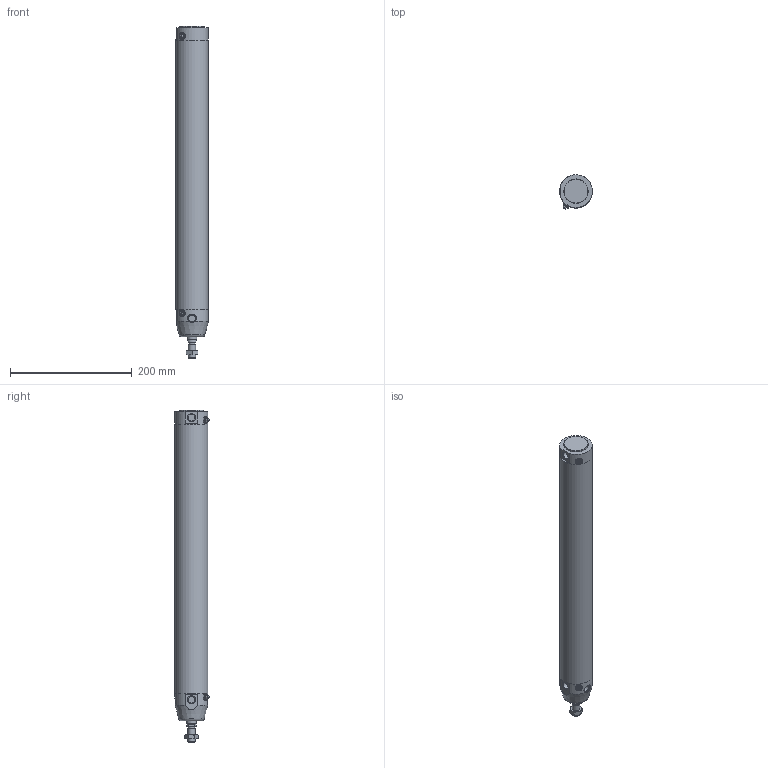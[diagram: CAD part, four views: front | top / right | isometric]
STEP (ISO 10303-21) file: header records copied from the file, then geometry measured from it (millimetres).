
FILE_DESCRIPTION(/* description */ (''),/* implementation_level */ '2;1');
FILE_NAME(/* name */ 'I:\Area Tecnica\Documenti\A-Manieri\_Inventor\12X\12X#E_###_####_#_#\12XBE_050_0400_#_#.stp',/* time_stamp */ '2015-05-08T13:58:24+02:00',/* author */ ('maniean1'),/* organization */ ('Pneumax S.p.A.'),/* preprocessor_version */ 'ST-DEVELOPER v15.2',/* originating_system */ 'Autodesk Inventor 2014',/* authorisation */ '');
FILE_SCHEMA (('AUTOMOTIVE_DESIGN { 1 0 10303 214 3 1 1 }'));
Length unit declared in the file: millimetre
Products named in the file (6): C1250_619-0400; 12X50_623; S12X50_0400; 12X_50_11; 12X50_612; 12XBE_050_0400_#_#
Bounding box: 54 x 55.88 x 545 mm (x, y, z)
Volume: 450525.1 mm3; surface area: 202697.1 mm2
Topology: 5 solids, 5 shells, 83 faces, 174 edges, 112 vertices
Faces by surface type: plane 45, cylinder 22, cone 13, torus 3
Full cylindrical faces by diameter (mm): 5 x2, 10.2 x1, 10.9 x2, 11 x2, 11.4 x2, 12 x2, 14 x1, 14.1 x2, 15.6 x1, 16 x1, 40 x1, 50 x2, 54 x3
Entity records: 2203 total; most frequent: CARTESIAN_POINT 508, DIRECTION 359, ORIENTED_EDGE 254, AXIS2_PLACEMENT_3D 161, EDGE_LOOP 136, EDGE_CURVE 127, VERTEX_POINT 101, ADVANCED_FACE 83
